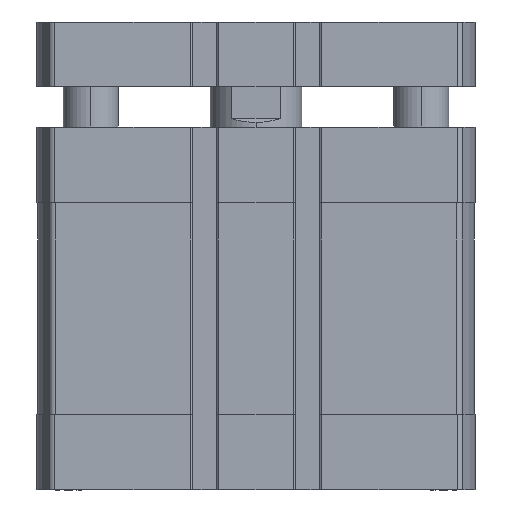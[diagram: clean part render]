
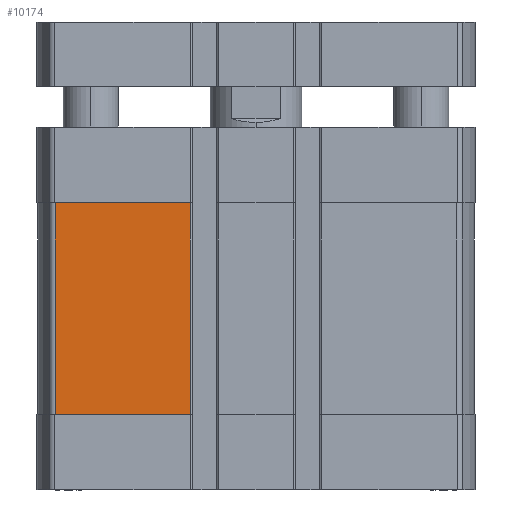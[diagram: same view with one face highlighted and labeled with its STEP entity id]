
A CAD part, front view. The second image highlights one B-rep face of the part: STEP entity #10174.
In plain terms, the highlighted planar face has unit normal (0, -1, 0) as drawn and (-1, 0, 0) by its records, which use the part's own axes.
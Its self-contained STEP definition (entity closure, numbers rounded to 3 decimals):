
#177 = LINE ( 'NONE', #10687, #14354 ) ;
#1249 = ORIENTED_EDGE ( 'NONE', *, *, #4168, .T. ) ;
#1445 = VERTEX_POINT ( 'NONE', #13910 ) ;
#1700 = AXIS2_PLACEMENT_3D ( 'NONE', #16607, #7348, #20301 ) ;
#2167 = CARTESIAN_POINT ( 'NONE',  ( -47.5, 14.3, -16.5 ) ) ;
#3031 = ORIENTED_EDGE ( 'NONE', *, *, #23382, .T. ) ;
#4168 = EDGE_CURVE ( 'NONE', #1445, #12042, #177, .T. ) ;
#5486 = PLANE ( 'NONE',  #1700 ) ;
#6419 = FACE_OUTER_BOUND ( 'NONE', #14251, .T. ) ;
#7296 = LINE ( 'NONE', #20690, #11682 ) ;
#7348 = DIRECTION ( 'NONE',  ( -1., 0., 0. ) ) ;
#7612 = CARTESIAN_POINT ( 'NONE',  ( -47.5, 0., -16.5 ) ) ;
#8089 = EDGE_CURVE ( 'NONE', #12750, #9340, #8257, .T. ) ;
#8257 = LINE ( 'NONE', #14730, #17562 ) ;
#9340 = VERTEX_POINT ( 'NONE', #17540 ) ;
#10174 = ADVANCED_FACE ( 'NONE', ( #6419 ), #5486, .T. ) ;
#10687 = CARTESIAN_POINT ( 'NONE',  ( -47.5, 14.3, -62.5 ) ) ;
#11682 = VECTOR ( 'NONE', #18857, 1000. ) ;
#12042 = VERTEX_POINT ( 'NONE', #2167 ) ;
#12640 = DIRECTION ( 'NONE',  ( 0., 0., 1. ) ) ;
#12750 = VERTEX_POINT ( 'NONE', #13624 ) ;
#13237 = DIRECTION ( 'NONE',  ( 0., 1., 0. ) ) ;
#13624 = CARTESIAN_POINT ( 'NONE',  ( -47.5, 43.743, -16.5 ) ) ;
#13910 = CARTESIAN_POINT ( 'NONE',  ( -47.5, 14.3, -62.5 ) ) ;
#14251 = EDGE_LOOP ( 'NONE', ( #3031, #1249, #19721, #18661 ) ) ;
#14354 = VECTOR ( 'NONE', #12640, 1000. ) ;
#14730 = CARTESIAN_POINT ( 'NONE',  ( -47.5, 43.743, -62.5 ) ) ;
#15169 = LINE ( 'NONE', #7612, #20072 ) ;
#16397 = EDGE_CURVE ( 'NONE', #12042, #12750, #15169, .T. ) ;
#16607 = CARTESIAN_POINT ( 'NONE',  ( -47.5, 43.743, -62.5 ) ) ;
#17540 = CARTESIAN_POINT ( 'NONE',  ( -47.5, 43.743, -62.5 ) ) ;
#17562 = VECTOR ( 'NONE', #20201, 1000. ) ;
#18661 = ORIENTED_EDGE ( 'NONE', *, *, #8089, .T. ) ;
#18857 = DIRECTION ( 'NONE',  ( 0., -1., 0. ) ) ;
#19721 = ORIENTED_EDGE ( 'NONE', *, *, #16397, .T. ) ;
#20072 = VECTOR ( 'NONE', #13237, 1000. ) ;
#20201 = DIRECTION ( 'NONE',  ( 0., 0., -1. ) ) ;
#20301 = DIRECTION ( 'NONE',  ( 0., 0., 1. ) ) ;
#20690 = CARTESIAN_POINT ( 'NONE',  ( -47.5, 43.743, -62.5 ) ) ;
#23382 = EDGE_CURVE ( 'NONE', #9340, #1445, #7296, .T. ) ;
